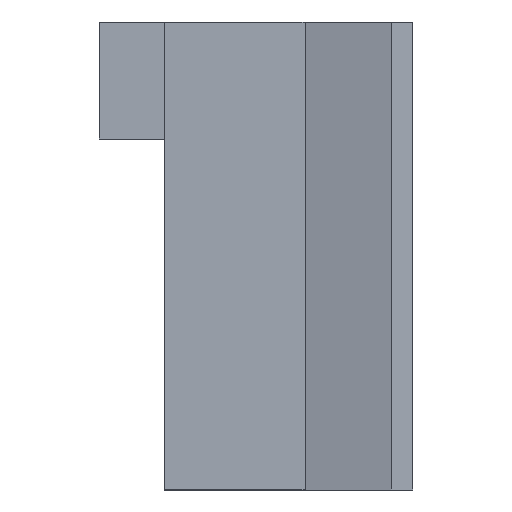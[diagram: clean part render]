
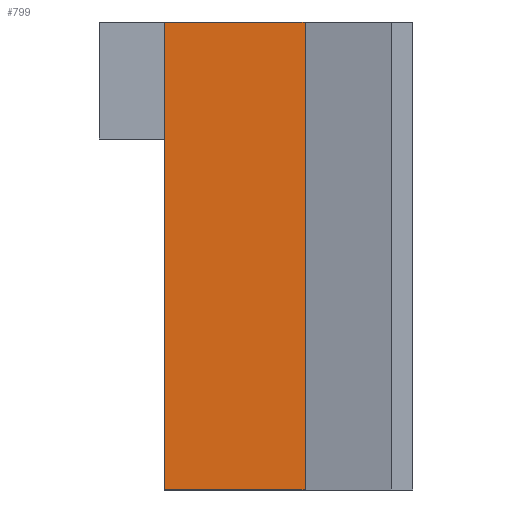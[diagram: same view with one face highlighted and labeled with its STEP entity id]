
A CAD part, left-side view. The second image highlights one B-rep face of the part: STEP entity #799.
In plain terms, the highlighted planar face has unit normal (-1, 0, 0).
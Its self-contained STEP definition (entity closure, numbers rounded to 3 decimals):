
#51=FACE_OUTER_BOUND('',#95,.T.);
#95=EDGE_LOOP('',(#678,#679,#680,#681));
#142=LINE('',#1143,#250);
#155=LINE('',#1172,#263);
#198=LINE('',#1257,#306);
#205=LINE('',#1271,#313);
#250=VECTOR('',#932,10.);
#263=VECTOR('',#961,10.);
#306=VECTOR('',#1010,10.);
#313=VECTOR('',#1031,10.);
#350=VERTEX_POINT('',#1140);
#351=VERTEX_POINT('',#1142);
#359=VERTEX_POINT('',#1171);
#398=VERTEX_POINT('',#1255);
#434=EDGE_CURVE('',#350,#351,#142,.T.);
#449=EDGE_CURVE('',#351,#359,#155,.T.);
#492=EDGE_CURVE('',#350,#398,#198,.T.);
#499=EDGE_CURVE('',#398,#359,#205,.T.);
#678=ORIENTED_EDGE('',*,*,#492,.T.);
#679=ORIENTED_EDGE('',*,*,#499,.T.);
#680=ORIENTED_EDGE('',*,*,#449,.F.);
#681=ORIENTED_EDGE('',*,*,#434,.F.);
#759=PLANE('',#857);
#799=ADVANCED_FACE('',(#51),#759,.T.);
#857=AXIS2_PLACEMENT_3D('',#1270,#1029,#1030);
#932=DIRECTION('',(0.,0.,1.));
#961=DIRECTION('',(0.,-1.,0.));
#1010=DIRECTION('',(0.,-1.,0.));
#1029=DIRECTION('center_axis',(-1.,0.,0.));
#1030=DIRECTION('ref_axis',(0.,0.,1.));
#1031=DIRECTION('',(0.,0.,1.));
#1140=CARTESIAN_POINT('',(56.582,14.5,30.819));
#1142=CARTESIAN_POINT('',(56.582,14.5,40.819));
#1143=CARTESIAN_POINT('',(56.582,14.5,1.319));
#1171=CARTESIAN_POINT('',(56.582,11.5,40.819));
#1172=CARTESIAN_POINT('',(56.582,12.25,40.819));
#1255=CARTESIAN_POINT('',(56.582,11.5,30.819));
#1257=CARTESIAN_POINT('',(56.582,12.424,30.819));
#1270=CARTESIAN_POINT('Origin',(56.582,13.,-1.181));
#1271=CARTESIAN_POINT('',(56.582,11.5,3.819));
